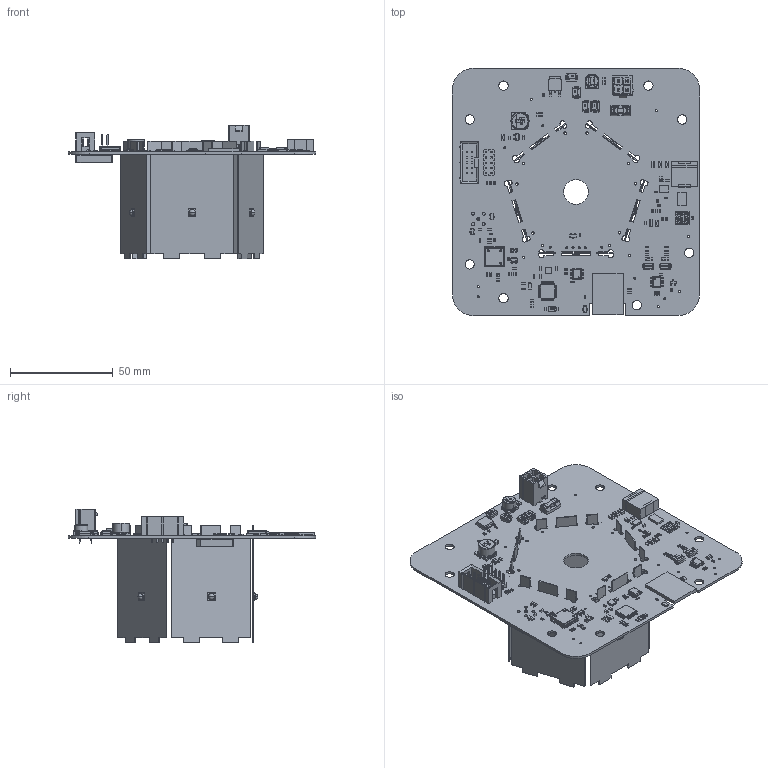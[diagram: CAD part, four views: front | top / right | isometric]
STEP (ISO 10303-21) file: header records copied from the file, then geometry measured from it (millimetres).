
FILE_DESCRIPTION(('Open CASCADE Model'),'2;1');
FILE_NAME('Open CASCADE Shape Model','2025-11-11T11:52:48',('Author'),( 'Open CASCADE'),'Open CASCADE STEP processor 7.5','Open CASCADE 7.5' ,'Unknown');
FILE_SCHEMA(('AUTOMOTIVE_DESIGN { 1 0 10303 214 1 1 1 1 }'));
Length unit declared in the file: millimetre
Products named in the file (212): Open CASCADE STEP translator 7.5 1; Open CASCADE STEP translator 7.5 2; Open CASCADE STEP translator 7.5 3; Open CASCADE STEP translator 7.5 4; Open CASCADE STEP translator 7.5 5; Open CASCADE STEP translator 7.5 6; Open CASCADE STEP translator 7.5 7; Open CASCADE STEP translator 7.5 8; Open CASCADE STEP translator 7.5 9; Open CASCADE STEP translator 7.5 10; Open CASCADE STEP translator 7.5 11; Open CASCADE STEP translator 7.5 12; Open CASCADE STEP translator 7.5 13; Open CASCADE STEP translator 7.5 14; Open CASCADE STEP translator 7.5 15; Open CASCADE STEP translator 7.5 16; Open CASCADE STEP translator 7.5 17; Open CASCADE STEP translator 7.5 18; Open CASCADE STEP translator 7.5 19; Open CASCADE STEP translator 7.5 20; Open CASCADE STEP translator 7.5 21; Open CASCADE STEP translator 7.5 22; Open CASCADE STEP translator 7.5 23; Open CASCADE STEP translator 7.5 24; Open CASCADE STEP translator 7.5 25; Open CASCADE STEP translator 7.5 26; Open CASCADE STEP translator 7.5 27; Open CASCADE STEP translator 7.5 28; Open CASCADE STEP translator 7.5 29; Open CASCADE STEP translator 7.5 30; Open CASCADE STEP translator 7.5 31; Open CASCADE STEP translator 7.5 32; Open CASCADE STEP translator 7.5 33; Open CASCADE STEP translator 7.5 34; Open CASCADE STEP translator 7.5 35; Open CASCADE STEP translator 7.5 36; Open CASCADE STEP translator 7.5 37; Open CASCADE STEP translator 7.5 38; Open CASCADE STEP translator 7.5 39; Open CASCADE STEP translator 7.5 40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
Bounding box: 120 x 120.1 x 65.1 mm (x, y, z)
Volume: 26099.9 mm3; surface area: 61541.6 mm2
Topology: 376 solids, 376 shells, 10451 faces, 27322 edges, 17278 vertices
Faces by surface type: plane 6299, cylinder 2307, bspline 1111, sphere 708, torus 22, cone 4
Full cylindrical faces by diameter (mm): 0.174 x1, 1 x39, 1.2 x10, 1.5 x9, 2.3 x1, 4.5 x8, 12.01 x1
Entity records: 403475 total; most frequent: CARTESIAN_POINT 116909, ORIENTED_EDGE 53088, DIRECTION 46369, EDGE_CURVE 26544, LINE 18753, VECTOR 18753, VERTEX_POINT 17278, AXIS2_PLACEMENT_3D 13808
